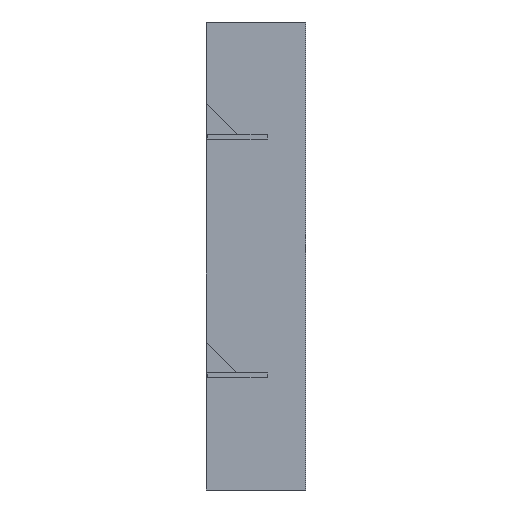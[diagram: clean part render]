
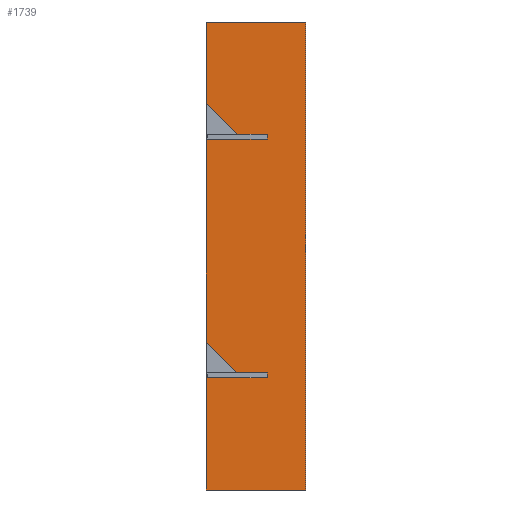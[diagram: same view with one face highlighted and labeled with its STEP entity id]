
A CAD part, left-side view. The second image highlights one B-rep face of the part: STEP entity #1739.
In plain terms, the highlighted planar face has unit normal (-1, 0, 0) as drawn and (0, 0, 1) by its records, which use the part's own axes.
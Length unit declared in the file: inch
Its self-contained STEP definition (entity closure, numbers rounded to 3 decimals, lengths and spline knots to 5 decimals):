
#115=FACE_OUTER_BOUND('',#203,.T.);
#203=EDGE_LOOP('',(#1447,#1448,#1449,#1450,#1451,#1452,#1453,#1454,#1455,
#1456,#1457,#1458,#1459,#1460,#1461,#1462,#1463,#1464));
#389=LINE('',#2684,#629);
#393=LINE('',#2691,#633);
#396=LINE('',#2697,#636);
#399=LINE('',#2705,#639);
#403=LINE('',#2712,#643);
#405=LINE('',#2715,#645);
#406=LINE('',#2718,#646);
#407=LINE('',#2720,#647);
#408=LINE('',#2722,#648);
#409=LINE('',#2724,#649);
#410=LINE('',#2726,#650);
#411=LINE('',#2728,#651);
#412=LINE('',#2730,#652);
#413=LINE('',#2732,#653);
#414=LINE('',#2734,#654);
#415=LINE('',#2736,#655);
#416=LINE('',#2738,#656);
#417=LINE('',#2739,#657);
#629=VECTOR('',#2196,0.3937);
#633=VECTOR('',#2202,0.3937);
#636=VECTOR('',#2207,0.3937);
#639=VECTOR('',#2212,0.3937);
#643=VECTOR('',#2218,0.3937);
#645=VECTOR('',#2222,0.3937);
#646=VECTOR('',#2225,0.3937);
#647=VECTOR('',#2226,0.3937);
#648=VECTOR('',#2227,0.3937);
#649=VECTOR('',#2228,0.3937);
#650=VECTOR('',#2229,0.3937);
#651=VECTOR('',#2230,0.3937);
#652=VECTOR('',#2231,0.3937);
#653=VECTOR('',#2232,0.3937);
#654=VECTOR('',#2233,0.3937);
#655=VECTOR('',#2234,0.3937);
#656=VECTOR('',#2235,0.3937);
#657=VECTOR('',#2236,0.3937);
#817=VERTEX_POINT('',#2681);
#818=VERTEX_POINT('',#2683);
#820=VERTEX_POINT('',#2689);
#822=VERTEX_POINT('',#2695);
#825=VERTEX_POINT('',#2702);
#826=VERTEX_POINT('',#2704);
#828=VERTEX_POINT('',#2710);
#829=VERTEX_POINT('',#2717);
#830=VERTEX_POINT('',#2719);
#831=VERTEX_POINT('',#2721);
#832=VERTEX_POINT('',#2723);
#833=VERTEX_POINT('',#2725);
#834=VERTEX_POINT('',#2727);
#835=VERTEX_POINT('',#2729);
#836=VERTEX_POINT('',#2731);
#837=VERTEX_POINT('',#2733);
#838=VERTEX_POINT('',#2735);
#839=VERTEX_POINT('',#2737);
#1029=EDGE_CURVE('',#818,#817,#389,.T.);
#1033=EDGE_CURVE('',#817,#820,#393,.T.);
#1036=EDGE_CURVE('',#820,#822,#396,.T.);
#1039=EDGE_CURVE('',#826,#825,#399,.T.);
#1043=EDGE_CURVE('',#825,#828,#403,.T.);
#1045=EDGE_CURVE('',#828,#818,#405,.T.);
#1046=EDGE_CURVE('',#822,#829,#406,.T.);
#1047=EDGE_CURVE('',#829,#830,#407,.T.);
#1048=EDGE_CURVE('',#830,#831,#408,.T.);
#1049=EDGE_CURVE('',#831,#832,#409,.T.);
#1050=EDGE_CURVE('',#832,#833,#410,.T.);
#1051=EDGE_CURVE('',#833,#834,#411,.T.);
#1052=EDGE_CURVE('',#834,#835,#412,.T.);
#1053=EDGE_CURVE('',#835,#836,#413,.T.);
#1054=EDGE_CURVE('',#836,#837,#414,.T.);
#1055=EDGE_CURVE('',#837,#838,#415,.T.);
#1056=EDGE_CURVE('',#838,#839,#416,.T.);
#1057=EDGE_CURVE('',#839,#826,#417,.T.);
#1447=ORIENTED_EDGE('',*,*,#1039,.T.);
#1448=ORIENTED_EDGE('',*,*,#1043,.T.);
#1449=ORIENTED_EDGE('',*,*,#1045,.T.);
#1450=ORIENTED_EDGE('',*,*,#1029,.T.);
#1451=ORIENTED_EDGE('',*,*,#1033,.T.);
#1452=ORIENTED_EDGE('',*,*,#1036,.T.);
#1453=ORIENTED_EDGE('',*,*,#1046,.T.);
#1454=ORIENTED_EDGE('',*,*,#1047,.T.);
#1455=ORIENTED_EDGE('',*,*,#1048,.T.);
#1456=ORIENTED_EDGE('',*,*,#1049,.T.);
#1457=ORIENTED_EDGE('',*,*,#1050,.T.);
#1458=ORIENTED_EDGE('',*,*,#1051,.T.);
#1459=ORIENTED_EDGE('',*,*,#1052,.T.);
#1460=ORIENTED_EDGE('',*,*,#1053,.T.);
#1461=ORIENTED_EDGE('',*,*,#1054,.T.);
#1462=ORIENTED_EDGE('',*,*,#1055,.T.);
#1463=ORIENTED_EDGE('',*,*,#1056,.T.);
#1464=ORIENTED_EDGE('',*,*,#1057,.T.);
#1651=PLANE('',#1886);
#1739=ADVANCED_FACE('',(#115),#1651,.T.);
#1886=AXIS2_PLACEMENT_3D('',#2716,#2223,#2224);
#2196=DIRECTION('',(0.,1.,0.));
#2202=DIRECTION('',(1.,0.,0.));
#2207=DIRECTION('',(0.,1.,0.));
#2212=DIRECTION('',(-0.703,-0.711,0.));
#2218=DIRECTION('',(0.,-1.,0.));
#2222=DIRECTION('',(-1.,0.,0.));
#2223=DIRECTION('center_axis',(0.,0.,1.));
#2224=DIRECTION('ref_axis',(1.,0.,0.));
#2225=DIRECTION('',(-1.,0.,0.));
#2226=DIRECTION('',(-0.703,-0.711,0.));
#2227=DIRECTION('',(0.,-1.,0.));
#2228=DIRECTION('',(-1.,0.,0.));
#2229=DIRECTION('',(0.,1.,0.));
#2230=DIRECTION('',(1.,0.,0.));
#2231=DIRECTION('',(0.,1.,0.));
#2232=DIRECTION('',(-1.,0.,0.));
#2233=DIRECTION('',(0.,-1.,0.));
#2234=DIRECTION('',(1.,0.,0.));
#2235=DIRECTION('',(0.,1.,0.));
#2236=DIRECTION('',(-1.,0.,0.));
#2681=CARTESIAN_POINT('',(35.25,9.375,0.48));
#2683=CARTESIAN_POINT('',(35.25,4.375,0.48));
#2684=CARTESIAN_POINT('',(35.25,7.1875,0.48));
#2689=CARTESIAN_POINT('',(35.495,9.375,0.48));
#2691=CARTESIAN_POINT('',(29.4975,9.375,0.48));
#2695=CARTESIAN_POINT('',(35.495,10.,0.48));
#2697=CARTESIAN_POINT('',(35.495,7.5,0.48));
#2702=CARTESIAN_POINT('',(35.75,6.875,0.48));
#2704=CARTESIAN_POINT('',(38.8409,10.,0.48));
#2705=CARTESIAN_POINT('',(32.25238,3.33879,0.48));
#2710=CARTESIAN_POINT('',(35.75,4.375,0.48));
#2712=CARTESIAN_POINT('',(35.75,4.6875,0.48));
#2715=CARTESIAN_POINT('',(29.375,4.375,0.48));
#2716=CARTESIAN_POINT('Origin',(23.5,5.,0.48));
#2717=CARTESIAN_POINT('',(14.8409,10.,0.48));
#2718=CARTESIAN_POINT('',(47.,10.,0.48));
#2719=CARTESIAN_POINT('',(11.75,6.875,0.48));
#2720=CARTESIAN_POINT('',(14.18655,9.33843,0.48));
#2721=CARTESIAN_POINT('',(11.75,4.375,0.48));
#2722=CARTESIAN_POINT('',(11.75,4.6875,0.48));
#2723=CARTESIAN_POINT('',(11.25,4.375,0.48));
#2724=CARTESIAN_POINT('',(17.375,4.375,0.48));
#2725=CARTESIAN_POINT('',(11.25,9.375,0.48));
#2726=CARTESIAN_POINT('',(11.25,7.1875,0.48));
#2727=CARTESIAN_POINT('',(11.495,9.375,0.48));
#2728=CARTESIAN_POINT('',(17.4975,9.375,0.48));
#2729=CARTESIAN_POINT('',(11.495,10.,0.48));
#2730=CARTESIAN_POINT('',(11.495,7.5,0.48));
#2731=CARTESIAN_POINT('',(0.,10.,0.48));
#2732=CARTESIAN_POINT('',(47.,10.,0.48));
#2733=CARTESIAN_POINT('',(0.,0.,0.48));
#2734=CARTESIAN_POINT('',(0.,10.,0.48));
#2735=CARTESIAN_POINT('',(47.,0.,0.48));
#2736=CARTESIAN_POINT('',(0.,0.,0.48));
#2737=CARTESIAN_POINT('',(47.,10.,0.48));
#2738=CARTESIAN_POINT('',(47.,0.,0.48));
#2739=CARTESIAN_POINT('',(47.,10.,0.48));
